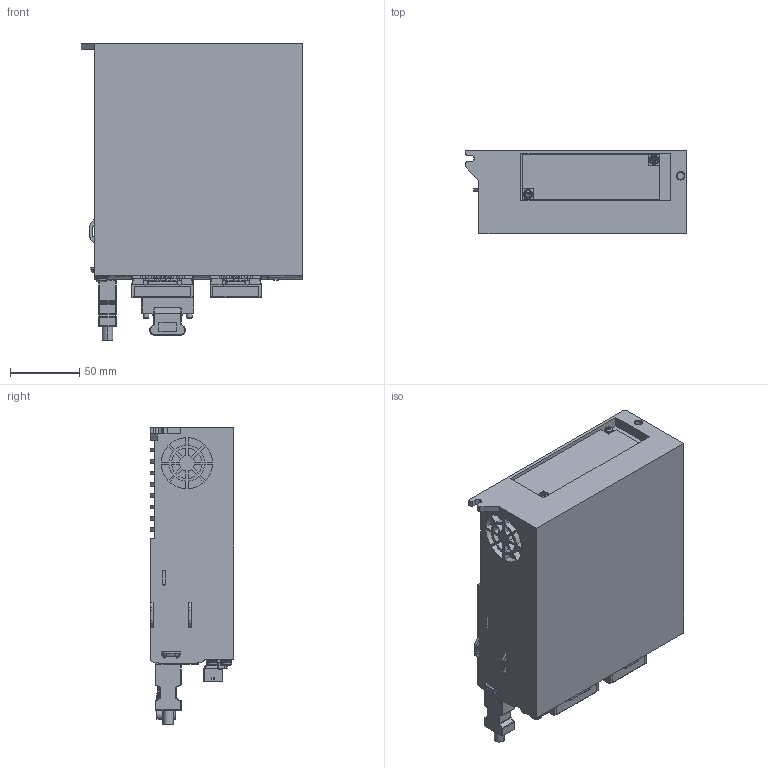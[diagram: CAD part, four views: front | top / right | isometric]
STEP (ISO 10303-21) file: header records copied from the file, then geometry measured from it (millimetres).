
FILE_DESCRIPTION (( 'STEP AP214' ), '1' );
FILE_NAME ('Ω6s-AN-B型-通用&基础-整机外形图.STEP', '2023-04-19T05:16:36', ( '' ), ( '' ), 'SwSTEP 2.0', 'SolidWorks 2014', '' );
FILE_SCHEMA (( 'AUTOMOTIVE_DESIGN' ));
Length unit declared in the file: millimetre
Products named in the file (23): plug-t3507506; 26pinMDRplug; STOM2X04P; plug-t3507505; M3-H6; JDZcoder; M4-H8; jack-t3507505; 次6s-AN-B倰-籵蚚&價插-淕儂俋倛芞; jack-t3507506; 750WK
Assembly tree (12 placements, depth 2):
  plug-t3507506
  STOM2X04P
  plug-t3507505
  M3-H6
  JDZcoder
Bounding box: 160 x 60 x 214.2 mm (x, y, z)
Volume: 1380432.2 mm3; surface area: 194359.5 mm2
Topology: 23 solids, 23 shells, 4409 faces, 12297 edges, 7965 vertices
Faces by surface type: plane 3361, cylinder 541, bspline 453, sphere 22, cone 20, torus 12
Entity records: 157605 total; most frequent: CARTESIAN_POINT 49084, ORIENTED_EDGE 24154, DIRECTION 19357, EDGE_CURVE 12077, VECTOR 9875, LINE 9875, VERTEX_POINT 7837, AXIS2_PLACEMENT_3D 4741
